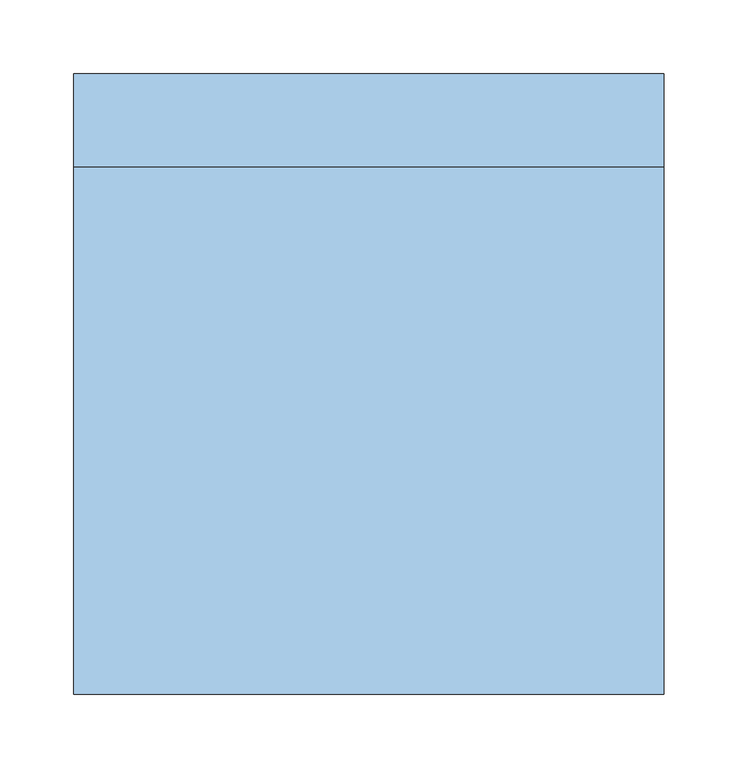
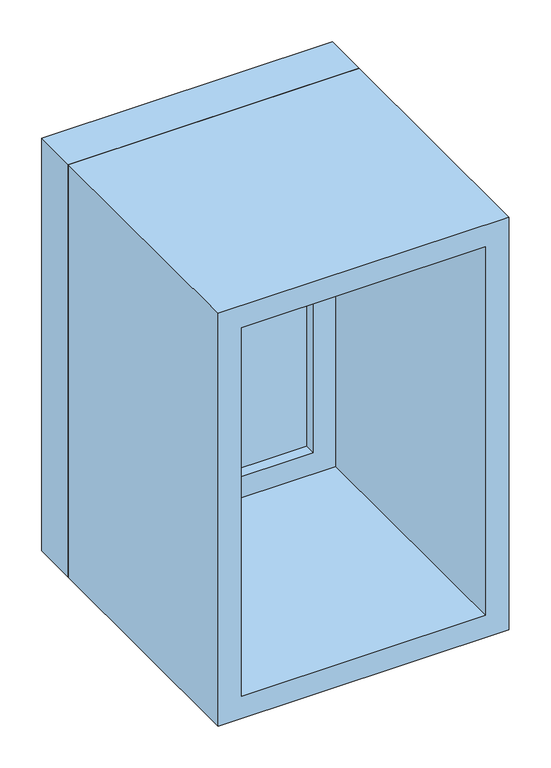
"""IFC4 building model written with IfcOpenShell, lengths in millimetres: window geometry, M_Неподвижный : 0406 x 0610 мм."""

import ifcopenshell
import ifcopenshell.guid

model = None  # the IFC model being written
_history = None  # IfcOwnerHistory: only IFC2X3 demands one
_inside = {}  # id of a spatial element -> (the spatial element, [elements in it])
_under = {}  # id of a project, library or spatial element -> (it, [spatial elements below it])
_declared = {}  # id of a project -> (the project, [libraries it declares])
_typed = {}  # id of a type object -> (the type object, [elements of that type])
_made_of = {}  # id of a material, layer set ... -> (it, [elements and type objects made of it])


def new_model(schema):
    """Start an empty IFC model of exactly this schema.

    Asked for "IFC4X3", IfcOpenShell would pick the latest addendum, in which some entities
    have other attributes; the version numbers below select the first issue.
    IFC2X3 requires an IfcOwnerHistory on every rooted entity: one is made here for all.
    """
    global model, _history
    if schema == "IFC4X3":
        model = ifcopenshell.file(schema_version=(4, 3, 0, 0))
    else:
        model = ifcopenshell.file(schema=schema)
    _inside.clear()
    _under.clear()
    _declared.clear()
    _typed.clear()
    _made_of.clear()
    _history = None
    if model.schema == "IFC2X3":
        org = make("IfcOrganization", Name="unknown")
        user = make(
            "IfcPersonAndOrganization",
            ThePerson=make("IfcPerson", FamilyName="unknown"),
            TheOrganization=org,
        )
        app = make(
            "IfcApplication",
            ApplicationDeveloper=org,
            Version="unknown",
            ApplicationFullName="unknown",
            ApplicationIdentifier="unknown",
        )
        _history = make(
            "IfcOwnerHistory",
            OwningUser=user,
            OwningApplication=app,
            ChangeAction="ADDED",
            CreationDate=0,
        )
    return model


def make(cls, **values):
    """One entity of the class cls with the attributes given. An attribute that is None is left unset."""
    return model.create_entity(
        cls, **{name: value for name, value in values.items() if value is not None}
    )


def rooted(cls, **values):
    """An entity with a GlobalId (a new one), such as an element, a storey or a relation."""
    return make(cls, GlobalId=ifcopenshell.guid.new(), OwnerHistory=_history, **values)


def si_unit(unit_type, name, prefix=None):
    """IfcSIUnit, for example si_unit("LENGTHUNIT", "METRE", prefix="MILLI")."""
    return make("IfcSIUnit", UnitType=unit_type, Prefix=prefix, Name=name)


def assignment(units):
    """IfcUnitAssignment: the units of a project."""
    return None if units is None else make("IfcUnitAssignment", Units=units)


def point(xyz):
    """IfcCartesianPoint."""
    return None if xyz is None else make("IfcCartesianPoint", Coordinates=xyz)


def direction(xyz):
    """IfcDirection."""
    return None if xyz is None else make("IfcDirection", DirectionRatios=xyz)


def frame(location, z_axis=None, x_axis=None):
    """IfcAxis2Placement3D, a coordinate frame: its origin and axes. An axis left out is left unset."""
    return make(
        "IfcAxis2Placement3D",
        Location=point(location),
        Axis=direction(z_axis),
        RefDirection=direction(x_axis),
    )


def origin():
    """The frame at (0, 0, 0) with its axes left unset."""
    return frame((0.0, 0.0, 0.0))


def place(relative_to, where):
    """IfcLocalPlacement: puts the frame where relative to a parent placement (None: the world)."""
    return make(
        "IfcLocalPlacement", PlacementRelTo=relative_to, RelativePlacement=where
    )


def context(
    kind, dimensions, precision=None, world=None, true_north=None, identifier=None
):
    """IfcGeometricRepresentationContext, for example the 3D "Model" context."""
    return make(
        "IfcGeometricRepresentationContext",
        ContextIdentifier=identifier,
        ContextType=kind,
        CoordinateSpaceDimension=dimensions,
        Precision=precision,
        WorldCoordinateSystem=world,
        TrueNorth=true_north,
    )


def project(units=None, contexts=None):
    """IfcProject with its units and contexts."""
    return rooted(
        "IfcProject",
        Name="project",
        RepresentationContexts=contexts,
        UnitsInContext=assignment(units),
    )


def spatial(cls, under=None, at=None, **own):
    """A site, building, storey or space (cls), placed at a placement, below another one or the project."""
    s = rooted(cls, ObjectPlacement=at, **own)
    if under is not None:
        _under.setdefault(under.id(), (under, []))[1].append(s)
    return s


def polyline(points):
    """IfcPolyline through the points."""
    return make("IfcPolyline", Points=[point(p) for p in points])


def outline(outer, holes=None, kind="AREA"):
    """IfcArbitraryClosedProfileDef: a profile drawn as a closed curve; with holes, ...WithVoids."""
    if holes is None:
        return make("IfcArbitraryClosedProfileDef", ProfileType=kind, OuterCurve=outer)
    return make(
        "IfcArbitraryProfileDefWithVoids",
        ProfileType=kind,
        OuterCurve=outer,
        InnerCurves=holes,
    )


def extrude(swept, where, along, depth):
    """IfcExtrudedAreaSolid: the profile swept, set in the frame where, extruded along a direction by depth."""
    return make(
        "IfcExtrudedAreaSolid",
        SweptArea=swept,
        Position=where,
        ExtrudedDirection=direction(along),
        Depth=depth,
    )


def shape(context_of_items, identifier, shape_type, items):
    """IfcShapeRepresentation: the items that make up one representation, for example the "Body"."""
    return make(
        "IfcShapeRepresentation",
        ContextOfItems=context_of_items,
        RepresentationIdentifier=identifier,
        RepresentationType=shape_type,
        Items=items,
    )


def source(mapping_origin, context_of_items, identifier, shape_type, items):
    """IfcRepresentationMap: a shape defined once, which mapped items show again and again."""
    return make(
        "IfcRepresentationMap",
        MappingOrigin=mapping_origin,
        MappedRepresentation=shape(context_of_items, identifier, shape_type, items),
    )


def transform(
    local_origin,
    x_axis=None,
    y_axis=None,
    z_axis=None,
    scale=None,
    scale2=None,
    scale3=None,
    uniform=True,
):
    """IfcCartesianTransformationOperator3D, or its non-uniform kind. x_axis, y_axis, z_axis: its Axis1, 2, 3."""
    if uniform:
        return make(
            "IfcCartesianTransformationOperator3D",
            Axis1=direction(x_axis),
            Axis2=direction(y_axis),
            LocalOrigin=point(local_origin),
            Scale=scale,
            Axis3=direction(z_axis),
        )
    return make(
        "IfcCartesianTransformationOperator3DnonUniform",
        Axis1=direction(x_axis),
        Axis2=direction(y_axis),
        LocalOrigin=point(local_origin),
        Scale=scale,
        Axis3=direction(z_axis),
        Scale2=scale2,
        Scale3=scale3,
    )


def mapped(mapping_source, mapping_target):
    """IfcMappedItem: shows the shape of a source again, moved by a transform."""
    return make(
        "IfcMappedItem", MappingSource=mapping_source, MappingTarget=mapping_target
    )


def made_of(thing, what):
    """Note that an element or type object is made of a material, layer set ...; save() writes the relation."""
    if what is not None:
        _made_of.setdefault(what.id(), (what, []))[1].append(thing)
    return thing


def element(
    cls,
    number,
    at=None,
    inside=None,
    cuts=None,
    type_object=None,
    material=None,
    context=None,
    identifier="Body",
    shape_type=None,
    held_by="IfcProductDefinitionShape",
    body=None,
    shapes=None,
    **own,
):
    """One element of the class cls, such as IfcWall. Its Tag is "e" and its number.

    at: its placement. inside: the storey or other place that contains it. cuts: it is an
    opening in that element (IfcRelVoidsElement). A single representation is given by context,
    identifier, shape_type and body (its items); several are given by shapes. held_by: the class
    of the entity that holds the representations. save() writes the other relations.
    """
    e = rooted(cls, Tag="e%d" % number, ObjectPlacement=at, **own)
    if body is not None:
        shapes = [shape(context, identifier, shape_type, body)]
    if shapes is not None:
        e.Representation = make(held_by, Representations=shapes)
    if inside is not None:
        _inside.setdefault(inside.id(), (inside, []))[1].append(e)
    if cuts is not None:
        rooted(
            "IfcRelVoidsElement", RelatingBuildingElement=cuts, RelatedOpeningElement=e
        )
    if type_object is not None:
        _typed.setdefault(type_object.id(), (type_object, []))[1].append(e)
    return made_of(e, material)


def aggregate(whole, parts):
    """IfcRelAggregates: a whole, such as a stair, and the parts it consists of."""
    return rooted("IfcRelAggregates", RelatingObject=whole, RelatedObjects=parts)


def save(model, path):
    """Write the relations noted so far, then the file.

    IfcRelAggregates (storeys below a building ...), IfcRelContainedInSpatialStructure (elements
    in a storey), IfcRelDefinesByType, IfcRelAssociatesMaterial and IfcRelDeclares: one each for
    every whole, place, type object, material and project.
    """
    for whole, parts in _under.values():
        aggregate(whole, parts)
    for where, things in _inside.values():
        rooted(
            "IfcRelContainedInSpatialStructure",
            RelatedElements=things,
            RelatingStructure=where,
        )
    for kind, things in _typed.values():
        rooted("IfcRelDefinesByType", RelatedObjects=things, RelatingType=kind)
    for what, things in _made_of.values():
        rooted("IfcRelAssociatesMaterial", RelatedObjects=things, RelatingMaterial=what)
    for by, libraries in _declared.values():
        rooted("IfcRelDeclares", RelatingContext=by, RelatedDefinitions=libraries)
    model.write(path)


def window_266312cd(model_context):
    return source(origin(), model_context, "Body", "SweptSolid", [
        extrude(outline(polyline([(1515.0, -200.0), (915.0, -200.0), (915.0, 200.0), (1515.0, 200.0), (1515.0, -200.0)]), holes=[polyline([(1496.0, -181.0), (1496.0, 181.0), (934.0, 181.0), (934.0, -181.0), (1496.0, -181.0)])]), frame((0.0, 160.0, 0.0), z_axis=(0.0, 1.0, 0.0), x_axis=(0.0, 0.0, 1.0)), (0.0, 0.0, 1.0), 63.0),
        extrude(outline(polyline([(1515.0, -200.0), (915.0, -200.0), (915.0, 200.0), (1515.0, 200.0), (1515.0, -200.0)]), holes=[polyline([(1483.0, -168.0), (1483.0, 168.0), (947.0, 168.0), (947.0, -168.0), (1483.0, -168.0)])]), frame((0.0, -197.0, 0.0), z_axis=(0.0, 1.0, 0.0), x_axis=(0.0, 0.0, 1.0)), (0.0, 0.0, 1.0), 357.0),
        extrude(outline(polyline([(-137.0, 188.0), (137.0, 188.0), (137.0, 176.0), (-137.0, 176.0), (-137.0, 188.0)])), frame((0.0, 0.0, 978.0), z_axis=(0.0, 0.0, 1.0), x_axis=(1.0, 0.0, 0.0)), (0.0, 0.0, 1.0), 474.0),
        extrude(outline(polyline([(1496.0, -181.0), (934.0, -181.0), (934.0, 181.0), (1496.0, 181.0), (1496.0, -181.0)]), holes=[polyline([(1452.0, -137.0), (1452.0, 137.0), (978.0, 137.0), (978.0, -137.0), (1452.0, -137.0)])]), frame((0.0, 160.0, 0.0), z_axis=(0.0, 1.0, 0.0), x_axis=(0.0, 0.0, 1.0)), (0.0, 0.0, 1.0), 44.0),
    ])


if __name__ == "__main__":
    model = new_model("IFC4")
    model_context = context("Model", 3, world=origin())
    ifc_project = project(units=[si_unit("LENGTHUNIT", "METRE", prefix="MILLI")], contexts=[model_context])
    site = spatial("IfcSite", under=ifc_project)
    building = spatial("IfcBuilding", under=site)
    placement = place(None, origin())
    window_shape = window_266312cd(model_context)
    element("IfcWindow", 1, ObjectType="M_Неподвижный : 0406 x 0610 мм", at=placement, inside=building, context=model_context, shape_type="MappedRepresentation", body=[
        mapped(window_shape, transform((0.0, 0.0, 0.0), x_axis=(1.0, 0.0, 0.0), y_axis=(0.0, 1.0, 0.0), z_axis=(0.0, 0.0, 1.0))),
    ])
    save(model, "model.ifc")
